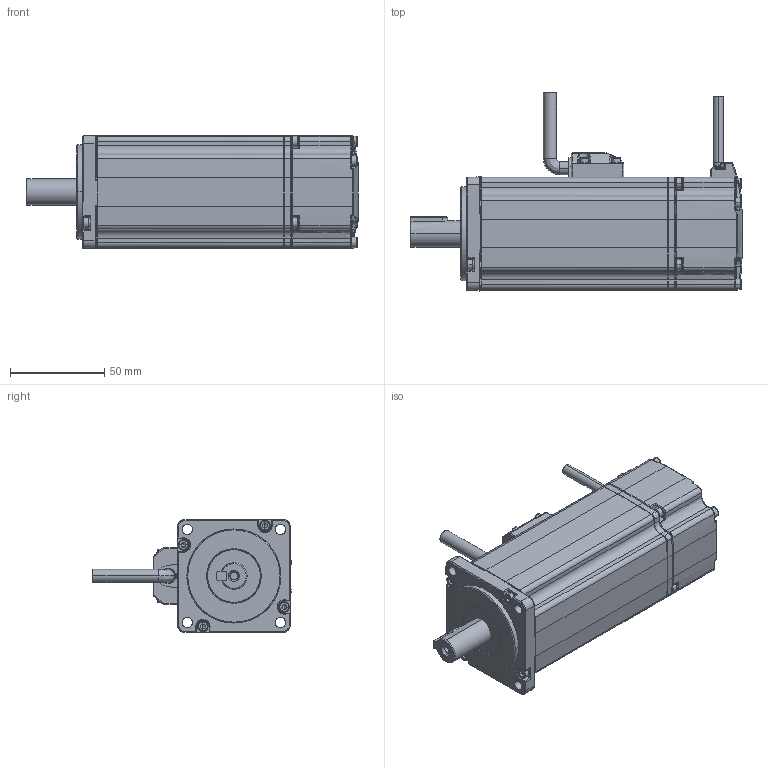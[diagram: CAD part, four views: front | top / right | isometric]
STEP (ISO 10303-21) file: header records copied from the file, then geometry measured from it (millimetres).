
FILE_DESCRIPTION(/* description */ (''),/* implementation_level */ '2;1');
FILE_NAME(/* name */ 'MXL-04~1',/* time_stamp */ '2020-07-21T14:41:42+01:00',/* author */ (''),/* organization */ (''),/* preprocessor_version */ 'ST-DEVELOPER v15',/* originating_system */ '',/* authorisation */ '');
FILE_SCHEMA (('AUTOMOTIVE_DESIGN'));
Length unit declared in the file: millimetre
Products named in the file (1): Document
Bounding box: 176.5 x 105.45 x 60.09 mm (x, y, z)
Surface area: 50110.3 mm2 (no closed solid volume)
Topology: 0 solids, 98 shells, 917 faces, 2729 edges, 1810 vertices
Faces by surface type: bspline 636, plane 281
Entity records: 46425 total; most frequent: CARTESIAN_POINT 31897, ORIENTED_EDGE 4256, EDGE_CURVE 2685, VERTEX_POINT 1813, B_SPLINE_CURVE_WITH_KNOTS 1718, EDGE_LOOP 996, ADVANCED_FACE 914, FACE_OUTER_BOUND 914
